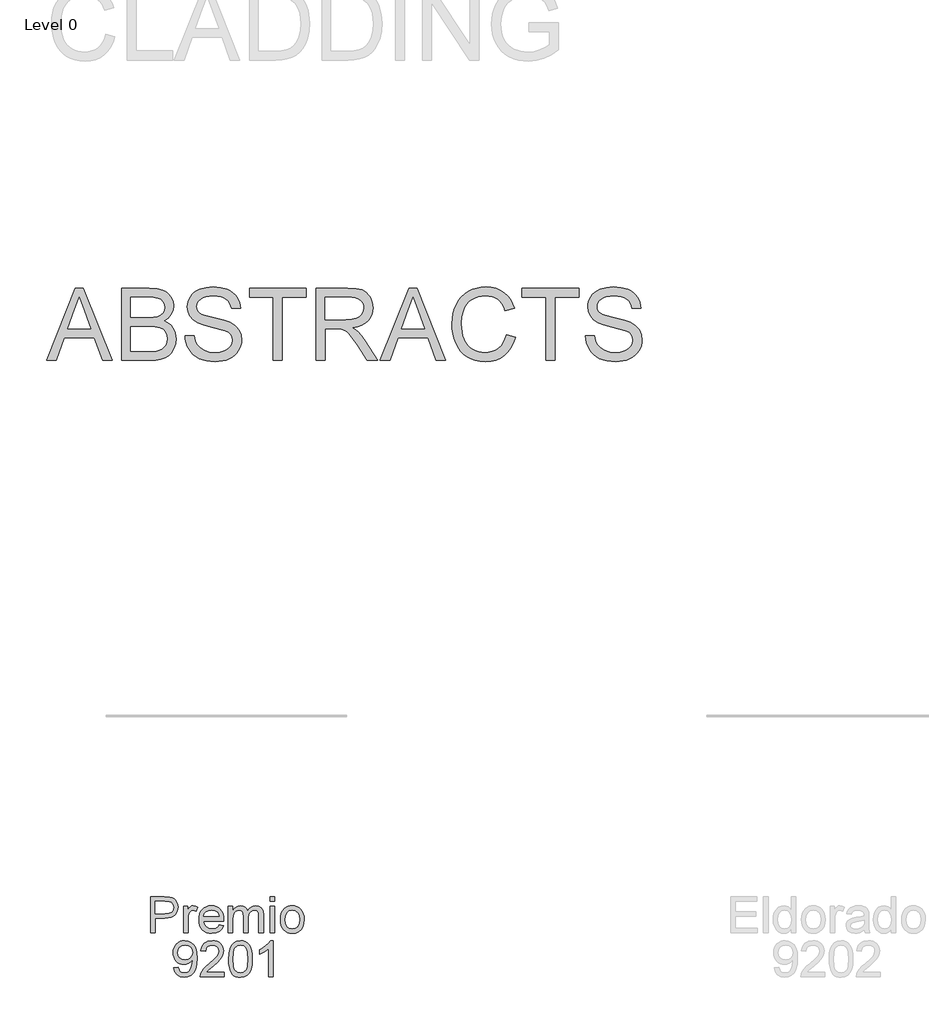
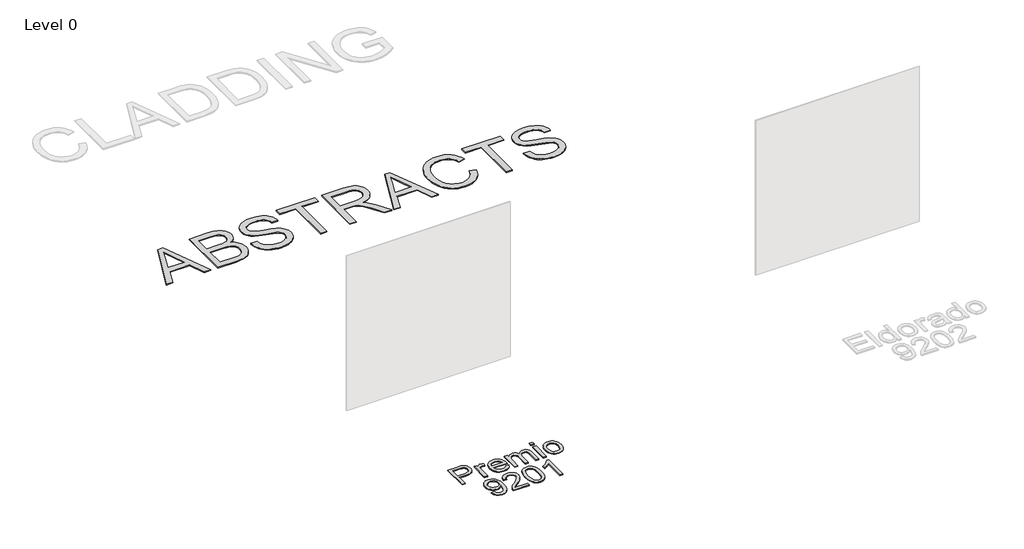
# One storey, part 3 of 8: 2 proxies.
"""IFC4 building model written with IfcOpenShell, lengths in millimetres."""

from ifc_helpers import new_model, si_unit, origin, origin_with_axes, place, context, project, spatial, polyline, outline, extrude, element, save

model = new_model("IFC4")

# Units and contexts
model_context = context("Model", 3, world=origin())
ifc_project = project(units=[si_unit("LENGTHUNIT", "METRE", prefix="MILLI")], contexts=[model_context])

# Site, building, storey
site = spatial("IfcSite", under=ifc_project)
building = spatial("IfcBuilding", under=site)
storey = spatial("IfcBuildingStorey", under=building, Name="Level 0", Elevation=0.0)

# Proxies
placement = place(None, origin())
element("IfcBuildingElementProxy", 1, Name="300mm Arial", ObjectType="300mm Arial", at=placement, inside=storey, context=model_context, shape_type="SweptSolid", body=[
    extrude(outline(polyline([(-10079.2948097, -7002.860494), (-10079.2948097, -6701.4915635), (-9967.6058359, -6701.4915635), (-9922.5770797, -6704.3610431), (-9902.4999198, -6709.7229232), (-9885.9728212, -6718.4509235), (-9872.66469, -6730.9405172), (-9862.2444325, -6747.5871775), (-9855.512192, -6767.222879), (-9853.2681118, -6788.6795964), (-9854.7833258, -6807.1794622), (-9859.3289677, -6824.198603), (-9866.9050375, -6839.7370188), (-9877.5115353, -6853.7947095), (-9892.0727645, -6865.4473717), (-9911.5130287, -6873.7707019), (-9935.8323279, -6878.7647), (-9965.030662, -6880.429366), (-10041.6236934, -6880.429366), (-10041.6236934, -7002.860494), (-10079.2948097, -7002.860494)]), holes=[polyline([(-10041.6236934, -6842.7582497), (-9962.82337, -6842.7582497), (-9929.4196848, -6839.3001589), (-9907.3467651, -6828.9258867), (-9895.0411124, -6812.2792264), (-9890.9392281, -6790.0039716), (-9893.3580523, -6773.0813998), (-9900.6145246, -6758.8075784), (-9911.8073343, -6748.0654241), (-9926.0351705, -6741.7378538), (-9963.7062868, -6739.1626798), (-10041.6236934, -6739.1626798), (-10041.6236934, -6842.7582497)])]), origin_with_axes(), (0.0, 0.0, 1.0), 10.0),
    extrude(outline(polyline([(-9806.1792164, -7002.860494), (-9806.1792164, -6781.5426857), (-9773.2169897, -6781.5426857), (-9773.2169897, -6814.2841833), (-9761.0400956, -6795.3014723), (-9749.8196948, -6784.1178596), (-9738.5625057, -6778.654812), (-9726.2752471, -6776.8337961), (-9707.5132653, -6779.7400639), (-9688.456978, -6788.4588672), (-9701.0385422, -6822.2304343), (-9714.2822941, -6816.4362929), (-9727.5260459, -6814.5049125), (-9738.7740379, -6816.3627165), (-9748.8264134, -6821.9361288), (-9756.9474084, -6830.8020848), (-9762.401259, -6842.5375205), (-9766.9813899, -6863.5803706), (-9768.5081001, -6886.5362071), (-9768.5081001, -7002.860494), (-9806.1792164, -7002.860494)])), origin_with_axes(), (0.0, 0.0, 1.0), 10.0),
    extrude(outline(polyline([(-9509.9606339, -6936.9360404), (-9473.0252816, -6941.64493), (-9486.3334128, -6969.4752029), (-9507.569401, -6990.2789297), (-9536.2549995, -7003.2467701), (-9571.9119619, -7007.5693835), (-9595.2862642, -7005.7046817), (-9616.1129836, -7000.1105761), (-9634.3921203, -6990.7870668), (-9650.1236741, -6977.7341537), (-9662.7742162, -6961.3151204), (-9671.8103177, -6941.8932503), (-9677.2319786, -6919.4685435), (-9679.0391989, -6894.0409998), (-9677.2135845, -6867.7512327), (-9671.7367413, -6844.5792656), (-9662.6086693, -6824.5250983), (-9649.8293685, -6807.5887309), (-9634.1392014, -6794.133447), (-9616.2785305, -6784.5225298), (-9596.2473559, -6778.7559796), (-9574.0456775, -6776.8337961), (-9552.5590697, -6778.751381), (-9533.1280026, -6784.5041357), (-9515.7524761, -6794.0920602), (-9500.4324903, -6807.5151545), (-9487.9268017, -6824.4147337), (-9478.994167, -6844.4321128), (-9473.6345862, -6867.5672917), (-9471.8480592, -6893.8202706), (-9472.0687884, -6903.9738137), (-9641.3680826, -6903.9738137), (-9634.8473742, -6932.1719686), (-9619.6998331, -6952.902119), (-9597.8384455, -6965.6492302), (-9571.1761979, -6969.8982672), (-9551.1266292, -6967.9300985), (-9534.2408456, -6962.0255925), (-9520.5188472, -6951.8168672), (-9509.9606339, -6936.9360404)]), holes=[polyline([(-9641.3680826, -6866.3026974), (-9509.5191755, -6866.3026974), (-9514.6143412, -6846.4002814), (-9524.6023373, -6832.1632482), (-9546.5648924, -6818.9194964), (-9574.1928303, -6814.5049125), (-9599.585885, -6818.0273826), (-9620.5827499, -6828.5947929), (-9635.178468, -6845.0667092), (-9641.3680826, -6866.3026974)])]), origin_with_axes(), (0.0, 0.0, 1.0), 10.0),
    extrude(outline(polyline([(-9434.1769429, -7002.860494), (-9434.1769429, -6781.5426857), (-9396.5058266, -6781.5426857), (-9396.5058266, -6817.9630032), (-9385.1750612, -6801.2335695), (-9370.6069342, -6788.1277734), (-9353.2980863, -6779.6572905), (-9333.7451582, -6776.8337961), (-9312.7942786, -6779.7124728), (-9296.0004655, -6788.3485026), (-9283.4556895, -6802.1716686), (-9275.251921, -6820.6117536), (-9261.5207255, -6801.4588972), (-9245.8581496, -6787.7782855), (-9228.2641932, -6779.5699185), (-9208.7388563, -6776.8337961), (-9180.4211397, -6781.3863358), (-9159.4794571, -6795.0439549), (-9146.5392079, -6818.1745354), (-9142.2257916, -6851.1459592), (-9142.2257916, -7002.860494), (-9179.8969079, -7002.860494), (-9179.8969079, -6867.332767), (-9183.3917868, -6835.8788564), (-9188.3030114, -6827.2060383), (-9196.0469274, -6820.3910244), (-9206.0073325, -6815.9764404), (-9217.5680242, -6814.5049125), (-9237.9762778, -6818.2757029), (-9254.6137411, -6829.5880743), (-9265.6777921, -6849.2145787), (-9269.3658091, -6877.9277684), (-9269.3658091, -7002.860494), (-9307.0369254, -7002.860494), (-9307.0369254, -6863.1389122), (-9309.2166262, -6841.8385447), (-9315.7557287, -6826.6450183), (-9327.2612381, -6817.5399389), (-9344.3401597, -6814.5049125), (-9358.8531044, -6816.5282634), (-9372.2256149, -6822.5983163), (-9383.2620748, -6832.5679184), (-9390.7668675, -6846.2899168), (-9395.0710868, -6865.3278101), (-9396.5058266, -6891.2450966), (-9396.5058266, -7002.860494), (-9434.1769429, -7002.860494)])), origin_with_axes(), (0.0, 0.0, 1.0), 10.0),
    extrude(outline(polyline([(-9085.7191171, -6739.1626798), (-9085.7191171, -6701.4915635), (-9048.0480008, -6701.4915635), (-9048.0480008, -6739.1626798), (-9085.7191171, -6739.1626798)])), origin_with_axes(), (0.0, 0.0, 1.0), 10.0),
    extrude(outline(polyline([(-9085.7191171, -7002.860494), (-9085.7191171, -6781.5426857), (-9048.0480008, -6781.5426857), (-9048.0480008, -7002.860494), (-9085.7191171, -7002.860494)])), origin_with_axes(), (0.0, 0.0, 1.0), 10.0),
    extrude(outline(polyline([(-9000.9591054, -6892.2015898), (-8998.9219589, -6863.5389839), (-8992.8105192, -6838.8403064), (-8982.6247865, -6818.1055575), (-8968.3647606, -6801.334737), (-8954.0081658, -6790.6155754), (-8938.1616488, -6782.9590314), (-8920.8252098, -6778.3651049), (-8901.9988487, -6776.8337961), (-8881.2158152, -6778.698498), (-8862.4239431, -6784.2926036), (-8845.6232322, -6793.6161129), (-8830.8136826, -6806.669026), (-8818.7264598, -6823.0098843), (-8810.0927293, -6842.1972296), (-8804.9124909, -6864.2310619), (-8803.1857448, -6889.1113811), (-8806.2391654, -6927.1687735), (-8815.399427, -6956.1394806), (-8830.3998154, -6977.8353213), (-8850.973616, -6994.0681143), (-8875.4101775, -7004.1940662), (-8901.9988487, -7007.5693835), (-8923.0853848, -7005.7115794), (-8942.0520009, -7000.1381672), (-8958.898697, -6990.8491468), (-8973.6254732, -6977.8445183), (-8985.5839373, -6961.3450108), (-8994.1256973, -6941.5713536), (-8999.2507534, -6918.5235466), (-9000.9591054, -6892.2015898)]), holes=[polyline([(-8963.2879891, -6892.1280134), (-8958.9285875, -6926.2214773), (-8945.8503825, -6950.5108861), (-8926.1686958, -6965.0514219), (-8901.9988487, -6969.8982672), (-8877.9393662, -6965.0238308), (-8858.2944677, -6950.4005215), (-8845.2162627, -6925.789216), (-8840.8568611, -6890.950791), (-8845.2438539, -6857.8506085), (-8858.4048323, -6833.8922936), (-8878.077322, -6819.3517577), (-8901.9988487, -6814.5049125), (-8926.1686958, -6819.3333636), (-8945.8503825, -6833.8187172), (-8958.9285875, -6858.0529436), (-8963.2879891, -6892.1280134)])]), origin_with_axes(), (0.0, 0.0, 1.0), 10.0),
    extrude(outline(polyline([(-9888.5847834, -7293.4427149), (-9850.9136671, -7288.7338254), (-9844.4757321, -7310.1169663), (-9833.9910953, -7324.6758963), (-9819.7172739, -7333.0360146), (-9801.9117853, -7335.8227207), (-9785.9365097, -7334.029296), (-9771.4143679, -7328.6490218), (-9759.3478385, -7320.2705094), (-9750.7393998, -7309.4823699), (-9738.4153529, -7276.7408723), (-9732.9706994, -7233.0364913), (-9733.1914286, -7225.6788514), (-9746.2420424, -7241.6081418), (-9763.320964, -7254.2264942), (-9783.1957888, -7262.4486568), (-9804.6341121, -7265.1893777), (-9822.5292719, -7263.5155146), (-9838.9850934, -7258.4939254), (-9854.0015766, -7250.12461), (-9867.5787214, -7238.4075684), (-9878.8290127, -7223.9544045), (-9886.864935, -7207.3767221), (-9891.6864884, -7188.6745212), (-9893.2936729, -7167.8478018), (-9891.6083135, -7146.326705), (-9886.5522353, -7127.0129003), (-9878.1254384, -7109.9063875), (-9866.3279227, -7095.0071667), (-9851.9920212, -7082.9360387), (-9835.9500669, -7074.3138045), (-9818.2020599, -7069.1404639), (-9798.7480001, -7067.4160171), (-9770.6510128, -7071.3523544), (-9745.074017, -7083.1613665), (-9723.681679, -7102.254442), (-9708.1386647, -7128.0429699), (-9698.6749004, -7163.6907352), (-9695.5203123, -7212.3615232), (-9698.6657034, -7263.96617), (-9708.1018765, -7303.8537754), (-9723.7460584, -7333.8269609), (-9745.5154754, -7355.6883485), (-9772.4720286, -7369.0424649), (-9803.6776189, -7373.4938371), (-9835.8856876, -7368.2423216), (-9861.5822449, -7352.4877751), (-9879.5532804, -7327.2234791), (-9888.5847834, -7293.4427149)]), holes=[polyline([(-9733.1914286, -7166.964885), (-9737.2565246, -7141.4338745), (-9749.4518128, -7121.788976), (-9768.3793414, -7109.262594), (-9792.641159, -7105.0871334), (-9817.8042875, -7109.5844908), (-9837.9642208, -7123.0765629), (-9851.2079727, -7143.7239399), (-9855.6225566, -7169.6872117), (-9851.447096, -7192.964945), (-9838.920714, -7211.4418182), (-9819.2574214, -7223.4991506), (-9793.6712286, -7227.5182614), (-9769.6025491, -7223.4991506), (-9750.224365, -7211.4418182), (-9737.4496627, -7192.2843633), (-9733.1914286, -7166.964885)])]), origin_with_axes(), (0.0, 0.0, 1.0), 10.0),
    extrude(outline(polyline([(-9469.4936145, -7331.1138312), (-9469.4936145, -7368.7849475), (-9667.2669751, -7368.7849475), (-9663.2202731, -7342.8124787), (-9653.9312527, -7322.5145896), (-9640.338013, -7302.8237058), (-9620.6747204, -7282.213117), (-9593.1755412, -7259.156113), (-9552.5245808, -7223.0484951), (-9528.1340045, -7196.3954446), (-9515.9387164, -7174.7639833), (-9511.8736203, -7153.7211331), (-9515.7087901, -7134.8579838), (-9527.2142995, -7119.1770138), (-9544.9002264, -7108.6096035), (-9567.2766488, -7105.0871334), (-9590.7751112, -7108.52683), (-9609.0312552, -7118.84592), (-9620.8126761, -7135.2350629), (-9624.8869692, -7156.8849183), (-9662.5580855, -7152.1760288), (-9653.425415, -7115.7373171), (-9644.8790564, -7101.2013798), (-9633.6793489, -7089.1210548), (-9620.0838099, -7079.6251008), (-9604.3499568, -7072.8422765), (-9566.4673084, -7067.4160171), (-9546.2774846, -7068.9243332), (-9528.3087484, -7073.4492818), (-9512.5610998, -7080.9908627), (-9499.0345387, -7091.549076), (-9488.1705235, -7104.3421723), (-9480.4105127, -7118.5884026), (-9475.7545062, -7134.2877667), (-9474.202504, -7151.4402648), (-9475.8763671, -7169.4572855), (-9480.8979563, -7187.1616065), (-9489.8098976, -7205.1694302), (-9503.154817, -7224.0969588), (-9524.4275934, -7246.6941104), (-9557.1231057, -7275.7108027), (-9600.4596047, -7311.9471793), (-9617.4557529, -7331.1138312), (-9469.4936145, -7331.1138312)])), origin_with_axes(), (0.0, 0.0, 1.0), 10.0),
    extrude(outline(polyline([(-9431.8224982, -7220.5285035), (-9429.0541861, -7172.2899768), (-9420.7492501, -7133.8187172), (-9406.9904635, -7104.5261133), (-9387.8605997, -7083.8235541), (-9363.2217031, -7071.5179013), (-9332.9358179, -7067.4160171), (-9309.722464, -7069.8440382), (-9288.9371312, -7077.1281017), (-9271.554707, -7088.983099), (-9258.5500784, -7105.1239216), (-9248.7276292, -7125.4126136), (-9240.8917427, -7149.7112194), (-9235.7597888, -7180.5673217), (-9234.0491375, -7220.5285035), (-9236.7898584, -7268.4911186), (-9245.012021, -7306.8704077), (-9258.6880342, -7336.1906027), (-9277.7903068, -7356.9759355), (-9302.4843857, -7369.3643617), (-9332.9358179, -7373.4938371), (-9353.6843624, -7371.7004123), (-9372.0784621, -7366.3201381), (-9388.1181171, -7357.3530145), (-9401.8033273, -7344.7990414), (-9414.9367146, -7322.1053209), (-9424.3177055, -7293.828991), (-9429.9463, -7259.9700519), (-9431.8224982, -7220.5285035)]), holes=[polyline([(-9394.1513818, -7220.4549271), (-9389.7367979, -7279.7115194), (-9384.218568, -7299.9795181), (-9376.4930461, -7314.0073184), (-9356.7745711, -7330.3688702), (-9332.9358179, -7335.8227207), (-9309.0970646, -7330.3504761), (-9289.3785896, -7313.933742), (-9281.6530677, -7299.8829491), (-9276.1348378, -7279.6195489), (-9271.7202539, -7220.4549271), (-9275.987685, -7162.5319069), (-9281.3219739, -7142.3305869), (-9288.7899784, -7127.9693935), (-9308.4716652, -7110.8076984), (-9333.3772762, -7105.0871334), (-9356.9585121, -7110.1271167), (-9375.9044349, -7125.2470667), (-9383.8874742, -7140.8820515), (-9389.5896451, -7161.9616898), (-9394.1513818, -7220.4549271)])]), origin_with_axes(), (0.0, 0.0, 1.0), 10.0),
    extrude(outline(polyline([(-9059.8202246, -7368.7849475), (-9097.4913409, -7368.7849475), (-9097.4913409, -7133.9290818), (-9133.1758945, -7159.3497277), (-9172.8335735, -7178.3692268), (-9172.8335735, -7142.7582497), (-9143.2466641, -7126.6634124), (-9117.6144861, -7107.5151545), (-9097.4085675, -7087.1528861), (-9084.1004363, -7067.4160171), (-9059.8202246, -7067.4160171), (-9059.8202246, -7368.7849475)])), origin_with_axes(), (0.0, 0.0, 1.0), 10.0),
])
element("IfcBuildingElementProxy", 2, Name="600mm Arial", ObjectType="600mm Arial", at=placement, inside=storey, context=model_context, shape_type="SweptSolid", body=[
    extrude(outline(polyline([(-10947.6550699, -2239.8720473), (-10707.0602451, -1637.1341864), (-10642.9016251, -1637.1341864), (-10402.3068003, -2239.8720473), (-10481.916464, -2239.8720473), (-10550.9311263, -2051.5164658), (-10799.1778967, -2051.5164658), (-10868.0454062, -2239.8720473), (-10947.6550699, -2239.8720473)]), holes=[polyline([(-10771.5131706, -1976.1742332), (-10578.4486996, -1976.1742332), (-10632.748082, -1827.9913655), (-10674.9809351, -1712.476419), (-10712.5048986, -1815.0419193), (-10771.5131706, -1976.1742332)])]), origin_with_axes(), (0.0, 0.0, 1.0), 10.0),
    extrude(outline(polyline([(-10321.8142197, -2239.8720473), (-10321.8142197, -1637.1341864), (-10091.8143963, -1637.1341864), (-10028.5570873, -1641.5671645), (-9979.1689294, -1654.8660986), (-9959.0917695, -1664.9230726), (-9941.3138721, -1677.3620826), (-9925.8352372, -1692.1831285), (-9912.6558647, -1709.3862103), (-9894.6112528, -1747.0573266), (-9888.5963822, -1786.4942765), (-9893.6547596, -1822.7858353), (-9908.8298919, -1856.9068903), (-9934.2321437, -1886.7605143), (-9969.9718795, -1910.2497797), (-9947.2321737, -1919.9434702), (-9927.279174, -1932.5434286), (-9910.1128804, -1948.0496547), (-9895.7332929, -1966.4621485), (-9884.3703378, -1987.2198901), (-9876.2539413, -2009.7618593), (-9871.3841034, -2034.0880563), (-9869.7608241, -2060.1984809), (-9874.1938021, -2102.2289988), (-9887.4927362, -2141.2060962), (-9907.3399699, -2174.352264), (-9931.4178464, -2198.8899931), (-9960.9035884, -2216.6586934), (-9996.974418, -2229.4977751), (-10040.8075577, -2237.2784793), (-10093.5802299, -2239.8720473), (-10321.8142197, -2239.8720473)]), holes=[polyline([(-10246.4719871, -1881.9964424), (-10108.8841209, -1881.9964424), (-10060.7651559, -1880.3777616), (-10028.5386932, -1875.5217193), (-10000.4141146, -1864.3565008), (-9980.198999, -1847.6362641), (-9968.0037109, -1825.6185267), (-9963.9386148, -1798.5608059), (-9967.7277994, -1772.2940315), (-9979.095353, -1749.4117714), (-9997.526241, -1731.5511005), (-10022.5054285, -1720.3490937), (-10060.8387323, -1714.4445877), (-10119.3319696, -1712.476419), (-10246.4719871, -1712.476419), (-10246.4719871, -1881.9964424)]), polyline([(-10246.4719871, -2164.5298147), (-10091.9615491, -2164.5298147), (-10036.0434859, -2161.5867588), (-10010.0894111, -2155.0568533), (-9988.7338613, -2145.1792218), (-9971.3698311, -2131.0341591), (-9957.3903153, -2111.7019602), (-9948.1748713, -2088.0471479), (-9945.1030567, -2060.9342449), (-9948.7083002, -2029.4435461), (-9959.5240309, -2002.3674312), (-9978.4147713, -1981.1958224), (-10006.2450443, -1967.4186417), (-10045.6636, -1959.8586667), (-10099.319189, -1957.338675), (-10246.4719871, -1957.338675), (-10246.4719871, -2164.5298147)])]), origin_with_axes(), (0.0, 0.0, 1.0), 10.0),
    extrude(outline(polyline([(-9794.4185914, -2032.6809076), (-9719.0763588, -2032.6809076), (-9710.4311319, -2074.4906964), (-9694.7961471, -2108.0967167), (-9670.4055709, -2134.7681613), (-9635.4935695, -2155.7742232), (-9592.8192581, -2169.4042512), (-9545.1417515, -2173.9475938), (-9503.1664159, -2170.5078971), (-9466.4150045, -2160.1888072), (-9436.634957, -2143.8548466), (-9415.5737128, -2122.3705381), (-9403.0473309, -2097.7040503), (-9398.8718702, -2071.8235519), (-9401.9988672, -2046.6052412), (-9411.3798581, -2024.8082329), (-9430.4361454, -2006.2117981), (-9462.5890318, -1990.5952074), (-9572.2914428, -1961.8268354), (-9644.3043433, -1942.7889421), (-9690.3815632, -1924.6707539), (-9727.8871326, -1899.3236844), (-9754.4666068, -1868.6055378), (-9770.3039267, -1833.1785017), (-9775.5830333, -1793.7047636), (-9773.9505569, -1771.2685604), (-9769.0531279, -1749.5773183), (-9760.8907461, -1728.6310372), (-9749.4634116, -1708.4297171), (-9734.8998831, -1689.796494), (-9717.3289194, -1673.554504), (-9696.7505202, -1659.7037468), (-9673.1646858, -1648.2442227), (-9620.1528903, -1632.8483612), (-9561.4757121, -1627.7164074), (-9497.9057033, -1633.0874845), (-9442.2819457, -1649.2007159), (-9417.9465517, -1661.202866), (-9396.5910019, -1675.7250077), (-9378.2152962, -1692.7671412), (-9362.8194347, -1712.3292662), (-9350.522979, -1733.8411659), (-9341.4454908, -1756.7326231), (-9335.58697, -1781.0036377), (-9332.9474167, -1806.6542098), (-9408.2896493, -1806.6542098), (-9413.3296326, -1782.6131214), (-9422.1220123, -1761.69903), (-9434.6667884, -1743.9119355), (-9450.9639607, -1729.251838), (-9471.3170321, -1717.7923139), (-9496.0295052, -1709.6069395), (-9525.1013798, -1704.6957148), (-9558.5326561, -1703.05864), (-9593.0307902, -1704.6773207), (-9622.5073351, -1709.5333631), (-9646.9622907, -1717.626767), (-9666.3956571, -1728.9575324), (-9681.2029074, -1742.5783633), (-9691.7795148, -1757.5419635), (-9698.1254792, -1773.8483329), (-9700.2408007, -1791.4974716), (-9698.7416815, -1806.681801), (-9694.2443242, -1820.4497846), (-9686.7487285, -1832.8014226), (-9676.2548946, -1843.7367149), (-9659.736993, -1854.0925931), (-9633.7277359, -1864.5588358), (-9553.2351554, -1885.8224152), (-9470.1674009, -1906.0191367), (-9419.9147204, -1923.6406843), (-9376.9644974, -1950.9743165), (-9360.3592239, -1967.0415627), (-9347.0005089, -1984.7090955), (-9336.7320027, -2003.8849445), (-9329.3973554, -2024.4771392), (-9323.5296376, -2069.9105656), (-9325.2172963, -2093.4780059), (-9330.2802722, -2116.3556674), (-9338.7185655, -2138.5435503), (-9350.5321761, -2160.0416544), (-9365.5141703, -2180.0176467), (-9383.4576146, -2197.6391943), (-9404.362509, -2212.9062971), (-9428.2288534, -2225.8189551), (-9454.3622707, -2236.0874613), (-9482.0683834, -2243.4221086), (-9542.1986955, -2249.2898264), (-9580.7389331, -2247.7079338), (-9616.0142179, -2242.9622561), (-9648.02455, -2235.0527932), (-9676.7699294, -2223.9795451), (-9702.4251, -2209.7241178), (-9725.1648058, -2192.2681172), (-9744.9890469, -2171.6115431), (-9761.8978231, -2147.7543957), (-9775.5186539, -2121.4692272), (-9785.479059, -2093.5285896), (-9791.7790381, -2063.9324831), (-9794.4185914, -2032.6809076)])), origin_with_axes(), (0.0, 0.0, 1.0), 10.0),
    extrude(outline(polyline([(-9059.8318235, -2239.8720473), (-9059.8318235, -1712.476419), (-9257.6051841, -1712.476419), (-9257.6051841, -1637.1341864), (-8786.7162303, -1637.1341864), (-8786.7162303, -1712.476419), (-8984.4895909, -1712.476419), (-8984.4895909, -2239.8720473), (-9059.8318235, -2239.8720473)])), origin_with_axes(), (0.0, 0.0, 1.0), 10.0),
    extrude(outline(polyline([(-8701.9562186, -2239.8720473), (-8701.9562186, -1637.1341864), (-8442.23153, -1637.1341864), (-8372.4259214, -1641.1992825), (-8321.6398119, -1653.3945706), (-8302.0408987, -1663.0882612), (-8284.5205186, -1675.9089487), (-8269.0786719, -1691.8566332), (-8255.7153584, -1710.9313147), (-8244.9318174, -1732.107522), (-8237.2292882, -1754.3597842), (-8232.6077706, -1777.6881012), (-8231.0672647, -1802.0924731), (-8233.6194461, -1833.049743), (-8241.2759901, -1861.4686271), (-8254.0368968, -1887.3491255), (-8271.9021662, -1910.691238), (-8295.1017245, -1930.7500038), (-8323.865498, -1946.7804618), (-8358.1934867, -1958.7826119), (-8398.0856905, -1966.7564541), (-8373.2536559, -1982.9800501), (-8355.2642263, -1998.9829169), (-8324.3989269, -2035.5871754), (-8294.1958151, -2076.5324415), (-8193.690454, -2239.8720473), (-8281.2463689, -2239.8720473), (-8359.6788103, -2114.9393218), (-8416.3326375, -2032.2394493), (-8437.3938817, -2008.1247845), (-8456.1374694, -1993.1703814), (-8491.9691757, -1978.8229836), (-8535.6735567, -1976.1742332), (-8626.613986, -1976.1742332), (-8626.613986, -2239.8720473), (-8701.9562186, -2239.8720473)]), holes=[polyline([(-8626.613986, -1900.8320006), (-8457.9768794, -1900.8320006), (-8409.5452147, -1898.1648561), (-8371.9660689, -1890.1634227), (-8343.6759435, -1876.2942715), (-8323.1113399, -1856.0239736), (-8310.584958, -1831.5046386), (-8306.4094973, -1804.8883762), (-8308.4006586, -1785.6205567), (-8314.3741425, -1768.1369649), (-8324.329949, -1752.4376008), (-8338.2680781, -1738.5224643), (-8356.5104266, -1727.1273195), (-8379.3788911, -1718.9879304), (-8406.8734717, -1714.1042969), (-8438.9941684, -1712.476419), (-8626.613986, -1712.476419), (-8626.613986, -1900.8320006)])]), origin_with_axes(), (0.0, 0.0, 1.0), 10.0),
    extrude(outline(polyline([(-8169.4102423, -2239.8720473), (-7928.8154175, -1637.1341864), (-7864.6567975, -1637.1341864), (-7624.0619727, -2239.8720473), (-7703.6716365, -2239.8720473), (-7772.6862987, -2051.5164658), (-8020.9330691, -2051.5164658), (-8089.8005786, -2239.8720473), (-8169.4102423, -2239.8720473)]), holes=[polyline([(-7993.2683431, -1976.1742332), (-7800.203872, -1976.1742332), (-7854.5032545, -1827.9913655), (-7896.7361075, -1712.476419), (-7934.260071, -1815.0419193), (-7993.2683431, -1976.1742332)])]), origin_with_axes(), (0.0, 0.0, 1.0), 10.0),
    extrude(outline(polyline([(-7119.7693337, -2025.6175733), (-7044.4271011, -2045.0417427), (-7059.3355189, -2091.8961133), (-7079.1919496, -2132.8367808), (-7103.9963932, -2167.8637453), (-7133.7488495, -2196.9770067), (-7167.7779341, -2219.8638653), (-7205.4122622, -2236.2116215), (-7246.6518338, -2246.0202752), (-7291.4966491, -2249.2898264), (-7337.4405117, -2246.81582), (-7378.887017, -2239.3938007), (-7415.8361649, -2227.0237686), (-7448.2879554, -2209.7057237), (-7476.6884454, -2187.6971834), (-7501.4836919, -2161.255665), (-7522.6736948, -2130.3811685), (-7540.2584542, -2095.073694), (-7554.0678246, -2056.8599518), (-7563.9316606, -2017.266652), (-7569.8499622, -1976.2937948), (-7571.8227294, -1933.9413801), (-7569.5924448, -1888.4987567), (-7562.901591, -1846.0543715), (-7551.750168, -1806.6082246), (-7536.1381758, -1770.1603159), (-7516.4151024, -1737.3130522), (-7492.9304355, -1708.6688404), (-7465.6841752, -1684.2276803), (-7434.6763216, -1663.9895721), (-7400.9599367, -1648.1200625), (-7365.5880829, -1636.7846985), (-7328.5607601, -1629.9834801), (-7289.8779683, -1627.7164074), (-7246.7851911, -1630.6502663), (-7207.2700663, -1639.451843), (-7171.3325939, -1654.1211376), (-7138.9727739, -1674.6581499), (-7110.7240352, -1700.5202542), (-7087.1198066, -1731.1648244), (-7068.1600883, -1766.5918605), (-7053.8448802, -1806.8013626), (-7129.1871128, -1824.754004), (-7141.0513071, -1795.1257078), (-7155.3067344, -1769.810828), (-7171.9533947, -1748.8093646), (-7190.991288, -1732.1213176), (-7212.5307788, -1719.4063961), (-7236.6822318, -1710.3243094), (-7263.4456469, -1704.8750573), (-7292.8210242, -1703.05864), (-7326.6201825, -1705.0727939), (-7357.5314672, -1711.1152557), (-7385.5548782, -1721.1860253), (-7410.6904155, -1735.2851027), (-7432.6207809, -1752.7778916), (-7451.0286763, -1773.0297954), (-7465.9141015, -1796.0408142), (-7477.2770566, -1821.810948), (-7491.6796367, -1876.9564591), (-7496.4804968, -1933.7942273), (-7490.7967199, -2003.3975008), (-7483.6919989, -2034.6674704), (-7473.7453895, -2063.5829952), (-7460.7959432, -2089.5692597), (-7444.6827118, -2112.0514481), (-7425.4056953, -2131.0295605), (-7402.9648936, -2146.503597), (-7378.4501571, -2158.5103456), (-7352.9513363, -2167.0865946), (-7326.4684312, -2172.232344), (-7299.0014418, -2173.9475938), (-7266.2461486, -2171.6115431), (-7236.1120147, -2164.6033911), (-7208.59904, -2152.9231378), (-7183.7072245, -2136.5707831), (-7162.0251794, -2115.6199035), (-7144.1415159, -2090.1440753), (-7130.056234, -2060.1432986), (-7119.7693337, -2025.6175733)])), origin_with_axes(), (0.0, 0.0, 1.0), 10.0),
    extrude(outline(polyline([(-6790.147066, -2239.8720473), (-6790.147066, -1712.476419), (-6987.9204266, -1712.476419), (-6987.9204266, -1637.1341864), (-6517.0314728, -1637.1341864), (-6517.0314728, -1712.476419), (-6714.8048334, -1712.476419), (-6714.8048334, -2239.8720473), (-6790.147066, -2239.8720473)])), origin_with_axes(), (0.0, 0.0, 1.0), 10.0),
    extrude(outline(polyline([(-6460.5247984, -2032.6809076), (-6385.1825657, -2032.6809076), (-6376.5373389, -2074.4906964), (-6360.9023541, -2108.0967167), (-6336.5117778, -2134.7681613), (-6301.5997764, -2155.7742232), (-6258.925465, -2169.4042512), (-6211.2479584, -2173.9475938), (-6169.2726228, -2170.5078971), (-6132.5212115, -2160.1888072), (-6102.7411639, -2143.8548466), (-6081.6799197, -2122.3705381), (-6069.1535378, -2097.7040503), (-6064.9780771, -2071.8235519), (-6068.1050741, -2046.6052412), (-6077.486065, -2024.8082329), (-6096.5423523, -2006.2117981), (-6128.6952387, -1990.5952074), (-6238.3976497, -1961.8268354), (-6310.4105502, -1942.7889421), (-6356.4877701, -1924.6707539), (-6393.9933395, -1899.3236844), (-6420.5728137, -1868.6055378), (-6436.4101336, -1833.1785017), (-6441.6892402, -1793.7047636), (-6440.0567638, -1771.2685604), (-6435.1593348, -1749.5773183), (-6426.996953, -1728.6310372), (-6415.5696185, -1708.4297171), (-6401.0060901, -1689.796494), (-6383.4351263, -1673.554504), (-6362.8567272, -1659.7037468), (-6339.2708927, -1648.2442227), (-6286.2590972, -1632.8483612), (-6227.581919, -1627.7164074), (-6164.0119102, -1633.0874845), (-6108.3881526, -1649.2007159), (-6084.0527586, -1661.202866), (-6062.6972088, -1675.7250077), (-6044.3215031, -1692.7671412), (-6028.9256416, -1712.3292662), (-6016.6291859, -1733.8411659), (-6007.5516977, -1756.7326231), (-6001.6931769, -1781.0036377), (-5999.0536236, -1806.6542098), (-6074.3958562, -1806.6542098), (-6079.4358395, -1782.6131214), (-6088.2282192, -1761.69903), (-6100.7729953, -1743.9119355), (-6117.0701677, -1729.251838), (-6137.423239, -1717.7923139), (-6162.1357121, -1709.6069395), (-6191.2075867, -1704.6957148), (-6224.638863, -1703.05864), (-6259.1369971, -1704.6773207), (-6288.613542, -1709.5333631), (-6313.0684976, -1717.626767), (-6332.501864, -1728.9575324), (-6347.3091143, -1742.5783633), (-6357.8857217, -1757.5419635), (-6364.2316861, -1773.8483329), (-6366.3470076, -1791.4974716), (-6364.8478885, -1806.681801), (-6360.3505311, -1820.4497846), (-6352.8549354, -1832.8014226), (-6342.3611015, -1843.7367149), (-6325.8431999, -1854.0925931), (-6299.8339429, -1864.5588358), (-6219.3413623, -1885.8224152), (-6136.2736078, -1906.0191367), (-6086.0209273, -1923.6406843), (-6043.0707043, -1950.9743165), (-6026.4654308, -1967.0415627), (-6013.1067158, -1984.7090955), (-6002.8382096, -2003.8849445), (-5995.5035623, -2024.4771392), (-5989.6358445, -2069.9105656), (-5991.3235032, -2093.4780059), (-5996.3864791, -2116.3556674), (-6004.8247724, -2138.5435503), (-6016.638383, -2160.0416544), (-6031.6203772, -2180.0176467), (-6049.5638215, -2197.6391943), (-6070.4687159, -2212.9062971), (-6094.3350604, -2225.8189551), (-6120.4684776, -2236.0874613), (-6148.1745903, -2243.4221086), (-6208.3049025, -2249.2898264), (-6246.84514, -2247.7079338), (-6282.1204248, -2242.9622561), (-6314.1307569, -2235.0527932), (-6342.8761363, -2223.9795451), (-6368.5313069, -2209.7241178), (-6391.2710128, -2192.2681172), (-6411.0952538, -2171.6115431), (-6428.00403, -2147.7543957), (-6441.6248608, -2121.4692272), (-6451.5852659, -2093.5285896), (-6457.885245, -2063.9324831), (-6460.5247984, -2032.6809076)])), origin_with_axes(), (0.0, 0.0, 1.0), 10.0),
])

save(model, "model.ifc")
